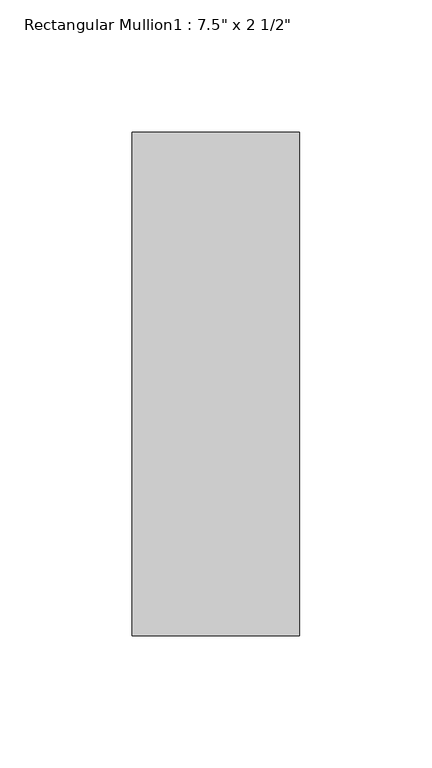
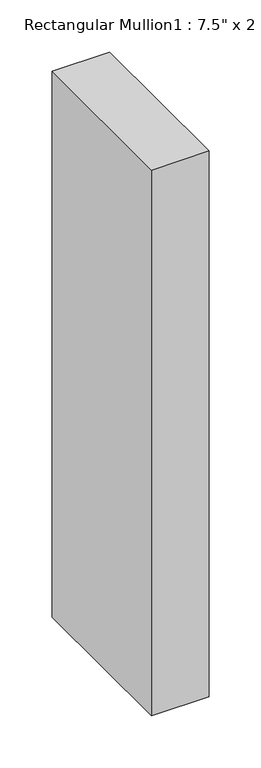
"""IFC4 building model written with IfcOpenShell, lengths in millimetres: member geometry."""

from ifc_helpers import new_model, si_unit, frame, origin, place, context, project, spatial, polyline, outline, extrude, source, transform, mapped, element, save


def member_0e9463fc(model_context):
    return source(origin(), model_context, "Body", "SweptSolid", [
        extrude(outline(polyline([(-63.5, 165.1), (0.0, 165.1), (0.0, -25.4), (-63.5, -25.4), (-63.5, 165.1)])), frame((0.0, 0.0, -638.1749983), z_axis=(0.0, 0.0, 1.0), x_axis=(1.0, 0.0, 0.0)), (0.0, 0.0, 1.0), 638.1749983),
    ])


if __name__ == "__main__":
    model = new_model("IFC4")
    model_context = context("Model", 3, world=origin())
    ifc_project = project(units=[si_unit("LENGTHUNIT", "METRE", prefix="MILLI")], contexts=[model_context])
    site = spatial("IfcSite", under=ifc_project)
    building = spatial("IfcBuilding", under=site)
    placement = place(None, origin())
    member_shape = member_0e9463fc(model_context)
    element("IfcMember", 1, ObjectType="Rectangular Mullion1 : 7.5\" x 2 1/2\"", at=placement, inside=building, context=model_context, shape_type="MappedRepresentation", body=[
        mapped(member_shape, transform((0.0, 0.0, 0.0), x_axis=(1.0, 0.0, 0.0), y_axis=(0.0, 1.0, 0.0), z_axis=(0.0, 0.0, 1.0))),
    ])
    save(model, "model.ifc")
